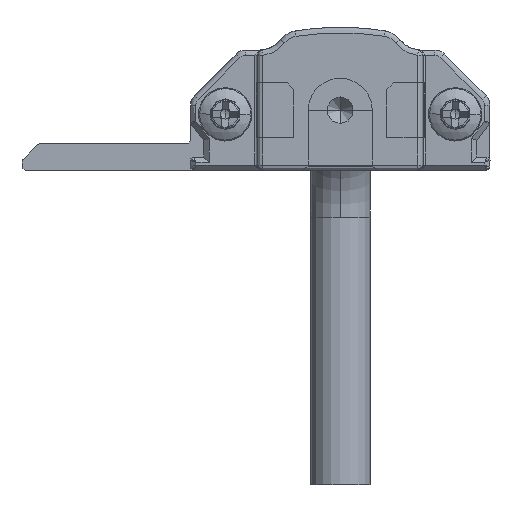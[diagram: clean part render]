
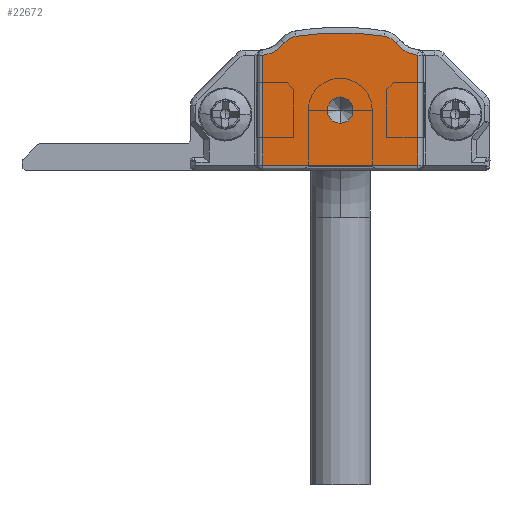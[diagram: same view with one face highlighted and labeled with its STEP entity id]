
A CAD part, front view. The second image highlights one B-rep face of the part: STEP entity #22672.
In plain terms, the highlighted planar face has unit normal (0, -1, 0).
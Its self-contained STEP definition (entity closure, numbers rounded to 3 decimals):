
#845 = VECTOR ( 'NONE', #22557, 1000. ) ;
#860 = CARTESIAN_POINT ( 'NONE',  ( 17., -15., 8.612 ) ) ;
#914 = CARTESIAN_POINT ( 'NONE',  ( 7.892, -15., 10.034 ) ) ;
#1606 = DIRECTION ( 'NONE',  ( 0., -1., 0. ) ) ;
#2023 = ORIENTED_EDGE ( 'NONE', *, *, #20753, .T. ) ;
#3027 = EDGE_CURVE ( 'NONE', #21064, #24602, #16841, .T. ) ;
#3208 = CARTESIAN_POINT ( 'NONE',  ( 8.1, -15., 8.75 ) ) ;
#3283 = LINE ( 'NONE', #860, #845 ) ;
#3352 = DIRECTION ( 'NONE',  ( 0., 0., -1. ) ) ;
#3414 = CIRCLE ( 'NONE', #19160, 1.3 ) ;
#3753 = CARTESIAN_POINT ( 'NONE',  ( 14.508, -15., 10.034 ) ) ;
#4019 = AXIS2_PLACEMENT_3D ( 'NONE', #11608, #11769, #6349 ) ;
#4021 = AXIS2_PLACEMENT_3D ( 'NONE', #16126, #8866, #13455 ) ;
#4879 = CARTESIAN_POINT ( 'NONE',  ( 14.3, -15., 8.75 ) ) ;
#5149 = VERTEX_POINT ( 'NONE', #914 ) ;
#5232 = CARTESIAN_POINT ( 'NONE',  ( 17., -15., 0.4 ) ) ;
#5256 = CARTESIAN_POINT ( 'NONE',  ( 7.068, -15., 9.541 ) ) ;
#6349 = DIRECTION ( 'NONE',  ( 0., 0., -1. ) ) ;
#6376 = CARTESIAN_POINT ( 'NONE',  ( 5.4, -15., 0.4 ) ) ;
#6414 = CARTESIAN_POINT ( 'NONE',  ( 5.4, -15., 8.612 ) ) ;
#6607 = DIRECTION ( 'NONE',  ( 0., 1., 0. ) ) ;
#6696 = VECTOR ( 'NONE', #7800, 1000. ) ;
#6980 = DIRECTION ( 'NONE',  ( 0., -1., 0. ) ) ;
#7123 = CIRCLE ( 'NONE', #4021, 2.4 ) ;
#7363 = ORIENTED_EDGE ( 'NONE', *, *, #10923, .T. ) ;
#7800 = DIRECTION ( 'NONE',  ( 0., 0., -1. ) ) ;
#7873 = DIRECTION ( 'NONE',  ( 0., 0., -1. ) ) ;
#8105 = EDGE_CURVE ( 'NONE', #24602, #26484, #8383, .T. ) ;
#8383 = LINE ( 'NONE', #27804, #29377 ) ;
#8644 = CIRCLE ( 'NONE', #4019, 20.676 ) ;
#8866 = DIRECTION ( 'NONE',  ( 0., 1., 0. ) ) ;
#8892 = EDGE_CURVE ( 'NONE', #18290, #24892, #14152, .T. ) ;
#9025 = DIRECTION ( 'NONE',  ( 0., 0., -1. ) ) ;
#9557 = DIRECTION ( 'NONE',  ( 0., 0., -1. ) ) ;
#10923 = EDGE_CURVE ( 'NONE', #5149, #27628, #3414, .T. ) ;
#11066 = DIRECTION ( 'NONE',  ( 0., -1., 0. ) ) ;
#11305 = AXIS2_PLACEMENT_3D ( 'NONE', #26560, #19172, #18886 ) ;
#11608 = CARTESIAN_POINT ( 'NONE',  ( 11.2, -15., -10.376 ) ) ;
#11769 = DIRECTION ( 'NONE',  ( 0., -1., 0. ) ) ;
#11846 = EDGE_CURVE ( 'NONE', #24892, #5149, #8644, .T. ) ;
#12267 = CARTESIAN_POINT ( 'NONE',  ( 5.4, -15., 0.4 ) ) ;
#12571 = AXIS2_PLACEMENT_3D ( 'NONE', #15821, #1606, #9025 ) ;
#13280 = EDGE_LOOP ( 'NONE', ( #14542, #22074 ) ) ;
#13455 = DIRECTION ( 'NONE',  ( 0., 0., -1. ) ) ;
#14152 = CIRCLE ( 'NONE', #14633, 1.3 ) ;
#14542 = ORIENTED_EDGE ( 'NONE', *, *, #20311, .F. ) ;
#14633 = AXIS2_PLACEMENT_3D ( 'NONE', #4879, #6980, #9557 ) ;
#14899 = DIRECTION ( 'NONE',  ( 1., 0., 0. ) ) ;
#15536 = EDGE_CURVE ( 'NONE', #27628, #21064, #30733, .T. ) ;
#15821 = CARTESIAN_POINT ( 'NONE',  ( 11.2, -15., 4.5 ) ) ;
#15934 = DIRECTION ( 'NONE',  ( 0., -1., 0. ) ) ;
#16126 = CARTESIAN_POINT ( 'NONE',  ( 17.238, -15., 11. ) ) ;
#16311 = DIRECTION ( 'NONE',  ( 0., 0., -1. ) ) ;
#16841 = LINE ( 'NONE', #12267, #6696 ) ;
#16866 = ORIENTED_EDGE ( 'NONE', *, *, #27979, .T. ) ;
#17086 = ORIENTED_EDGE ( 'NONE', *, *, #8892, .T. ) ;
#17200 = CIRCLE ( 'NONE', #28437, 1. ) ;
#17237 = ORIENTED_EDGE ( 'NONE', *, *, #3027, .T. ) ;
#17341 = PLANE ( 'NONE',  #11305 ) ;
#17621 = ORIENTED_EDGE ( 'NONE', *, *, #15536, .T. ) ;
#17663 = EDGE_LOOP ( 'NONE', ( #16866, #2023, #17086, #25217, #7363, #17621, #17237, #22150 ) ) ;
#18290 = VERTEX_POINT ( 'NONE', #18888 ) ;
#18886 = DIRECTION ( 'NONE',  ( 0., 0., -1. ) ) ;
#18888 = CARTESIAN_POINT ( 'NONE',  ( 15.332, -15., 9.541 ) ) ;
#19117 = CARTESIAN_POINT ( 'NONE',  ( 5.162, -15., 11. ) ) ;
#19160 = AXIS2_PLACEMENT_3D ( 'NONE', #3208, #11066, #7873 ) ;
#19172 = DIRECTION ( 'NONE',  ( 0., -1., 0. ) ) ;
#19720 = FACE_BOUND ( 'NONE', #13280, .T. ) ;
#20311 = EDGE_CURVE ( 'NONE', #27345, #27875, #17200, .T. ) ;
#20753 = EDGE_CURVE ( 'NONE', #26116, #18290, #7123, .T. ) ;
#21064 = VERTEX_POINT ( 'NONE', #6414 ) ;
#22074 = ORIENTED_EDGE ( 'NONE', *, *, #24335, .F. ) ;
#22150 = ORIENTED_EDGE ( 'NONE', *, *, #8105, .T. ) ;
#22557 = DIRECTION ( 'NONE',  ( 0., 0., 1. ) ) ;
#22672 = ADVANCED_FACE ( 'NONE', ( #30170, #19720 ), #17341, .T. ) ;
#24335 = EDGE_CURVE ( 'NONE', #27875, #27345, #26773, .T. ) ;
#24602 = VERTEX_POINT ( 'NONE', #6376 ) ;
#24892 = VERTEX_POINT ( 'NONE', #3753 ) ;
#25166 = CARTESIAN_POINT ( 'NONE',  ( 11.2, -15., 4.5 ) ) ;
#25217 = ORIENTED_EDGE ( 'NONE', *, *, #11846, .T. ) ;
#25582 = AXIS2_PLACEMENT_3D ( 'NONE', #19117, #6607, #16311 ) ;
#26110 = CARTESIAN_POINT ( 'NONE',  ( 11.2, -15., 5.5 ) ) ;
#26116 = VERTEX_POINT ( 'NONE', #27773 ) ;
#26484 = VERTEX_POINT ( 'NONE', #5232 ) ;
#26560 = CARTESIAN_POINT ( 'NONE',  ( 22.15, -15., 3.606 ) ) ;
#26773 = CIRCLE ( 'NONE', #12571, 1. ) ;
#26834 = CARTESIAN_POINT ( 'NONE',  ( 11.2, -15., 3.5 ) ) ;
#27345 = VERTEX_POINT ( 'NONE', #26834 ) ;
#27628 = VERTEX_POINT ( 'NONE', #5256 ) ;
#27773 = CARTESIAN_POINT ( 'NONE',  ( 17., -15., 8.612 ) ) ;
#27804 = CARTESIAN_POINT ( 'NONE',  ( 17., -15., 0.4 ) ) ;
#27875 = VERTEX_POINT ( 'NONE', #26110 ) ;
#27979 = EDGE_CURVE ( 'NONE', #26484, #26116, #3283, .T. ) ;
#28437 = AXIS2_PLACEMENT_3D ( 'NONE', #25166, #15934, #3352 ) ;
#29377 = VECTOR ( 'NONE', #14899, 1000. ) ;
#30170 = FACE_OUTER_BOUND ( 'NONE', #17663, .T. ) ;
#30733 = CIRCLE ( 'NONE', #25582, 2.4 ) ;
